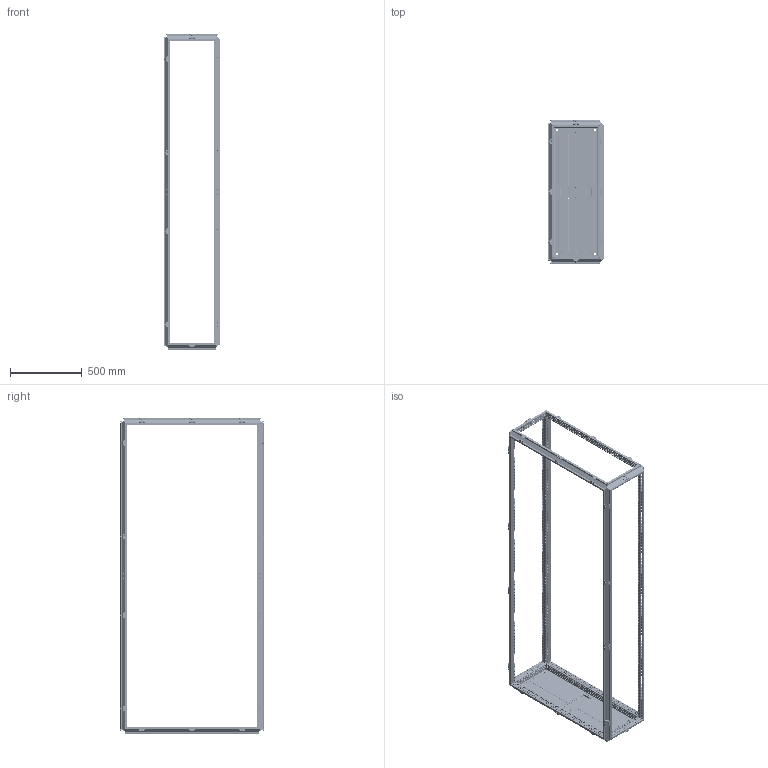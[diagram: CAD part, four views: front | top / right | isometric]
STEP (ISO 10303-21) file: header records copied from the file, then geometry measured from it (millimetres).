
FILE_DESCRIPTION(('STEP AP203'), '1');
FILE_NAME('3000 忺謤僔 捘', '', ('UNSPECIFIED'), ('UNSPECIFIED'), 'C3D Converter', 'C3D Toolkit', '');
FILE_SCHEMA(('CONFIG_CONTROL_DESIGN'));
Length unit declared in the file: millimetre
Products named in the file (13): 3000.220.100.40 СБ; 3000; 3007.175; 3007.75; 3006; 3009.04; 3009.04.01; 3009.04.2; 3009.04.01.2
Assembly tree (138 placements, depth 3):
  3000.220.100.40 СБ
    3000
    (unnamed)  x88
    3007.175  x2
    (unnamed)  x14
    3007.75  x2
    3006
    3009.04  x8
      3009.04.01
      (unnamed)
      (unnamed)
    3009.04.2  x13
      3009.04.01.2
      (unnamed)
      (unnamed)
Bounding box: 397 x 997 x 2198.5 mm (x, y, z)
Volume: 4050848.5 mm3; surface area: 5396850.5 mm2
Topology: 221 solids, 221 shells, 17803 faces, 50083 edges, 33048 vertices
Faces by surface type: plane 12509, cylinder 4326, cone 624, torus 244, bspline 100
Full cylindrical faces by diameter (mm): 4.134 x122, 4.5 x2118, 4.8 x14, 5 x132, 5.8 x34, 6.8 x176, 7 x88, 7.5 x42, 8 x88, 9.2 x42, 10.106 x8, 14 x4
Entity records: 422138 total; most frequent: CARTESIAN_POINT 77539, ORIENTED_EDGE 67926, DIRECTION 64169, EDGE_CURVE 33963, LINE 27991, VECTOR 27991, VERTEX_POINT 23942, EDGE_LOOP 23235
